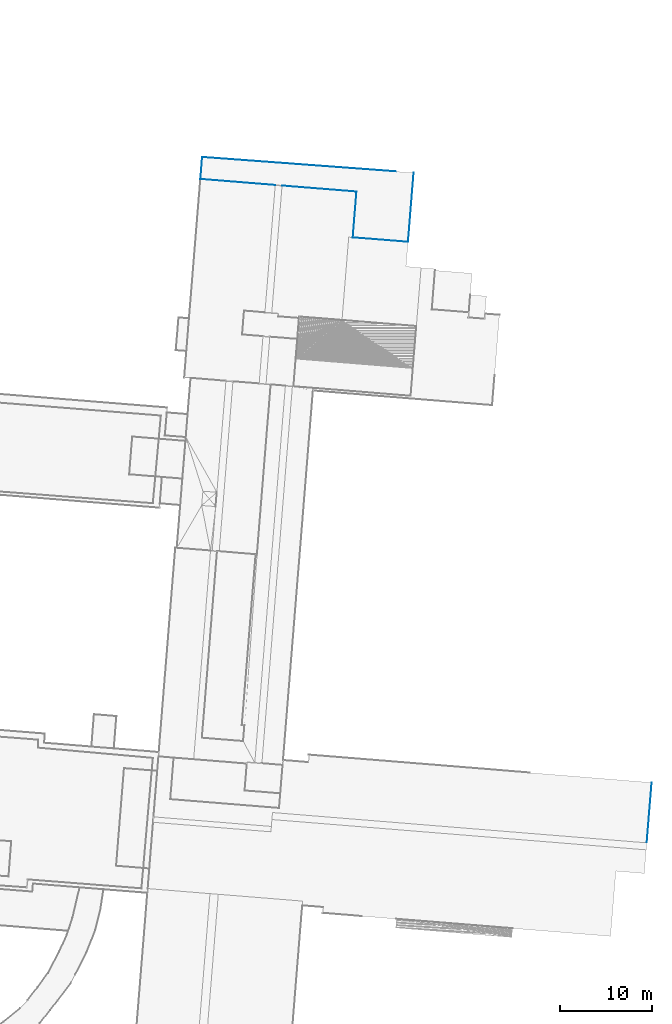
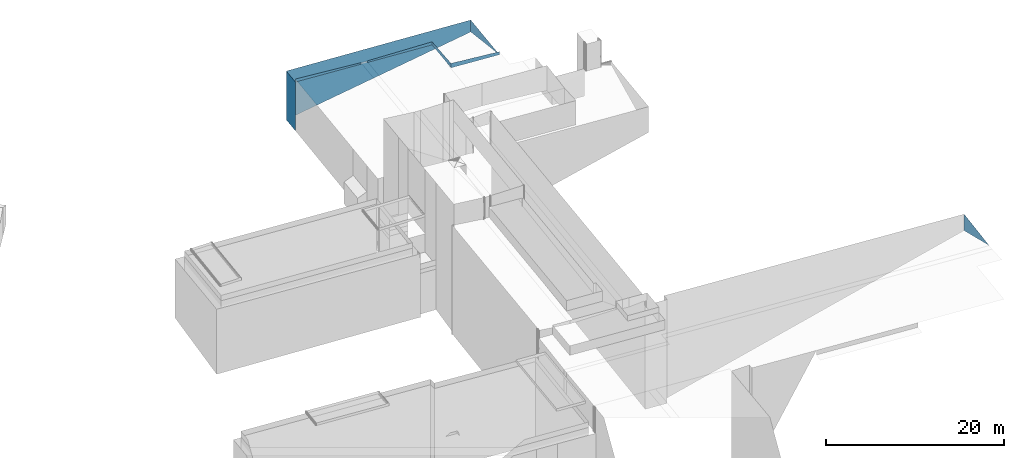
# Not in any storey, part 83 of 136: 8 walls.
"""IFC4 building model written with IfcOpenShell, lengths in metres."""

import ifcopenshell
import ifcopenshell.guid

model = None  # the IFC model being written
_history = None  # IfcOwnerHistory: only IFC2X3 demands one
_inside = {}  # id of a spatial element -> (the spatial element, [elements in it])
_under = {}  # id of a project, library or spatial element -> (it, [spatial elements below it])
_declared = {}  # id of a project -> (the project, [libraries it declares])
_typed = {}  # id of a type object -> (the type object, [elements of that type])
_made_of = {}  # id of a material, layer set ... -> (it, [elements and type objects made of it])


def new_model(schema):
    """Start an empty IFC model of exactly this schema.

    Asked for "IFC4X3", IfcOpenShell would pick the latest addendum, in which some entities
    have other attributes; the version numbers below select the first issue.
    IFC2X3 requires an IfcOwnerHistory on every rooted entity: one is made here for all.
    """
    global model, _history
    if schema == "IFC4X3":
        model = ifcopenshell.file(schema_version=(4, 3, 0, 0))
    else:
        model = ifcopenshell.file(schema=schema)
    _inside.clear()
    _under.clear()
    _declared.clear()
    _typed.clear()
    _made_of.clear()
    _history = None
    if model.schema == "IFC2X3":
        org = make("IfcOrganization", Name="unknown")
        user = make(
            "IfcPersonAndOrganization",
            ThePerson=make("IfcPerson", FamilyName="unknown"),
            TheOrganization=org,
        )
        app = make(
            "IfcApplication",
            ApplicationDeveloper=org,
            Version="unknown",
            ApplicationFullName="unknown",
            ApplicationIdentifier="unknown",
        )
        _history = make(
            "IfcOwnerHistory",
            OwningUser=user,
            OwningApplication=app,
            ChangeAction="ADDED",
            CreationDate=0,
        )
    return model


def make(cls, **values):
    """One entity of the class cls with the attributes given. An attribute that is None is left unset."""
    return model.create_entity(
        cls, **{name: value for name, value in values.items() if value is not None}
    )


def entity(cls, *values):
    """Any entity or typed value of the class cls, its attributes in the order of the schema. None: left unset."""
    e = model.create_entity(cls)
    for i, value in enumerate(values):
        if value is not None:
            e[i] = value
    return e


def rooted(cls, **values):
    """An entity with a GlobalId (a new one), such as an element, a storey or a relation."""
    return make(cls, GlobalId=ifcopenshell.guid.new(), OwnerHistory=_history, **values)


def si_unit(unit_type, name, prefix=None):
    """IfcSIUnit, for example si_unit("LENGTHUNIT", "METRE", prefix="MILLI")."""
    return make("IfcSIUnit", UnitType=unit_type, Prefix=prefix, Name=name)


def converted_unit(unit_type, name, factor, base, dimensions=None, offset=None):
    """IfcConversionBasedUnit, such as the inch: factor (a typed value) times the base unit."""
    return make(
        "IfcConversionBasedUnit"
        if offset is None
        else "IfcConversionBasedUnitWithOffset",
        ConversionOffset=offset,
        Dimensions=None
        if dimensions is None
        else entity("IfcDimensionalExponents", *dimensions),
        UnitType=unit_type,
        Name=name,
        ConversionFactor=make(
            "IfcMeasureWithUnit", ValueComponent=factor, UnitComponent=base
        ),
    )


def assignment(units):
    """IfcUnitAssignment: the units of a project."""
    return None if units is None else make("IfcUnitAssignment", Units=units)


def point(xyz):
    """IfcCartesianPoint."""
    return None if xyz is None else make("IfcCartesianPoint", Coordinates=xyz)


def direction(xyz):
    """IfcDirection."""
    return None if xyz is None else make("IfcDirection", DirectionRatios=xyz)


def frame(location, z_axis=None, x_axis=None):
    """IfcAxis2Placement3D, a coordinate frame: its origin and axes. An axis left out is left unset."""
    return make(
        "IfcAxis2Placement3D",
        Location=point(location),
        Axis=direction(z_axis),
        RefDirection=direction(x_axis),
    )


def origin():
    """The frame at (0, 0, 0) with its axes left unset."""
    return frame((0.0, 0.0, 0.0))


def place(relative_to, where):
    """IfcLocalPlacement: puts the frame where relative to a parent placement (None: the world)."""
    return make(
        "IfcLocalPlacement", PlacementRelTo=relative_to, RelativePlacement=where
    )


def context(
    kind, dimensions, precision=None, world=None, true_north=None, identifier=None
):
    """IfcGeometricRepresentationContext, for example the 3D "Model" context."""
    return make(
        "IfcGeometricRepresentationContext",
        ContextIdentifier=identifier,
        ContextType=kind,
        CoordinateSpaceDimension=dimensions,
        Precision=precision,
        WorldCoordinateSystem=world,
        TrueNorth=true_north,
    )


def subcontext(parent, identifier, kind, view, scale=None):
    """IfcGeometricRepresentationSubContext, for example "Body" below "Model"."""
    return make(
        "IfcGeometricRepresentationSubContext",
        ContextIdentifier=identifier,
        ContextType=kind,
        ParentContext=parent,
        TargetScale=scale,
        TargetView=view,
    )


def project(units=None, contexts=None):
    """IfcProject with its units and contexts."""
    return rooted(
        "IfcProject",
        Name="project",
        RepresentationContexts=contexts,
        UnitsInContext=assignment(units),
    )


def spatial(cls, under=None, at=None, **own):
    """A site, building, storey or space (cls), placed at a placement, below another one or the project."""
    s = rooted(cls, ObjectPlacement=at, **own)
    if under is not None:
        _under.setdefault(under.id(), (under, []))[1].append(s)
    return s


def faces_of(points, faces, orient=None, outer=None):
    """IfcFace entities. A face is a list of loops; a loop is a list of indices into points, from 0.

    orient and outer hold one flag for each loop. By default every Orientation is true, the
    first loop of a face is its IfcFaceOuterBound and the others are IfcFaceBound.
    """
    made = []
    for i, loops in enumerate(faces):
        bounds = []
        for j, loop in enumerate(loops):
            is_outer = j == 0 if outer is None else outer[i][j]
            bounds.append(
                make(
                    "IfcFaceOuterBound" if is_outer else "IfcFaceBound",
                    Bound=make("IfcPolyLoop", Polygon=[points[k] for k in loop]),
                    Orientation=True if orient is None else orient[i][j],
                )
            )
        made.append(make("IfcFace", Bounds=bounds))
    return made


def face_set(faces, orient=None, outer=None):
    """The faces of one IfcConnectedFaceSet. surface_model builds it on its shared points."""
    return ("IfcConnectedFaceSet", faces, orient, outer)


def surface_model(cls, points, shells):
    """IfcFaceBasedSurfaceModel or IfcShellBasedSurfaceModel (cls): surfaces that need not close."""
    shared = [point(p) for p in points]
    made = [make(c, CfsFaces=faces_of(shared, fs, o, b)) for c, fs, o, b in shells]
    if cls == "IfcFaceBasedSurfaceModel":
        return make(cls, FbsmFaces=made)
    return make(cls, SbsmBoundary=made)


def shape(context_of_items, identifier, shape_type, items):
    """IfcShapeRepresentation: the items that make up one representation, for example the "Body"."""
    return make(
        "IfcShapeRepresentation",
        ContextOfItems=context_of_items,
        RepresentationIdentifier=identifier,
        RepresentationType=shape_type,
        Items=items,
    )


def made_of(thing, what):
    """Note that an element or type object is made of a material, layer set ...; save() writes the relation."""
    if what is not None:
        _made_of.setdefault(what.id(), (what, []))[1].append(thing)
    return thing


def element(
    cls,
    number,
    at=None,
    inside=None,
    cuts=None,
    type_object=None,
    material=None,
    context=None,
    identifier="Body",
    shape_type=None,
    held_by="IfcProductDefinitionShape",
    body=None,
    shapes=None,
    **own,
):
    """One element of the class cls, such as IfcWall. Its Tag is "e" and its number.

    at: its placement. inside: the storey or other place that contains it. cuts: it is an
    opening in that element (IfcRelVoidsElement). A single representation is given by context,
    identifier, shape_type and body (its items); several are given by shapes. held_by: the class
    of the entity that holds the representations. save() writes the other relations.
    """
    e = rooted(cls, Tag="e%d" % number, ObjectPlacement=at, **own)
    if body is not None:
        shapes = [shape(context, identifier, shape_type, body)]
    if shapes is not None:
        e.Representation = make(held_by, Representations=shapes)
    if inside is not None:
        _inside.setdefault(inside.id(), (inside, []))[1].append(e)
    if cuts is not None:
        rooted(
            "IfcRelVoidsElement", RelatingBuildingElement=cuts, RelatedOpeningElement=e
        )
    if type_object is not None:
        _typed.setdefault(type_object.id(), (type_object, []))[1].append(e)
    return made_of(e, material)


def aggregate(whole, parts):
    """IfcRelAggregates: a whole, such as a stair, and the parts it consists of."""
    return rooted("IfcRelAggregates", RelatingObject=whole, RelatedObjects=parts)


def save(model, path):
    """Write the relations noted so far, then the file.

    IfcRelAggregates (storeys below a building ...), IfcRelContainedInSpatialStructure (elements
    in a storey), IfcRelDefinesByType, IfcRelAssociatesMaterial and IfcRelDeclares: one each for
    every whole, place, type object, material and project.
    """
    for whole, parts in _under.values():
        aggregate(whole, parts)
    for where, things in _inside.values():
        rooted(
            "IfcRelContainedInSpatialStructure",
            RelatedElements=things,
            RelatingStructure=where,
        )
    for kind, things in _typed.values():
        rooted("IfcRelDefinesByType", RelatedObjects=things, RelatingType=kind)
    for what, things in _made_of.values():
        rooted("IfcRelAssociatesMaterial", RelatedObjects=things, RelatingMaterial=what)
    for by, libraries in _declared.values():
        rooted("IfcRelDeclares", RelatingContext=by, RelatedDefinitions=libraries)
    model.write(path)


model = new_model("IFC4")

# Units and contexts
model_context = context("Model", 3, precision=1e-05, world=origin())
body_context = subcontext(model_context, "Body", "Model", "MODEL_VIEW")
ifc_project = project(units=[converted_unit("PLANEANGLEUNIT", "DEGREE", entity("IfcRatioMeasure", 0.0174532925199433), si_unit("PLANEANGLEUNIT", "RADIAN"), dimensions=[0, 0, 0, 0, 0, 0, 0]), si_unit("AREAUNIT", "SQUARE_METRE"), si_unit("LENGTHUNIT", "METRE")], contexts=[model_context])

# Site, building
site_placement = place(None, origin())
site = spatial("IfcSite", under=ifc_project, at=site_placement, Name="_site")
building_placement = place(site_placement, origin())
building = spatial("IfcBuilding", under=site, at=building_placement, Name="_building")

# Walls
wall_1_placement = place(building_placement, origin())
element("IfcWall", 1, at=wall_1_placement, inside=building, Name="Wall", PredefinedType="NOTDEFINED", context=body_context, shape_type="SurfaceModel", body=[
    surface_model("IfcFaceBasedSurfaceModel", [(266.59, 62.84, 52.25), (266.06, 56.3, 52.09), (266.59, 62.84, 49.983)], [face_set([[[0, 1, 2]]])]),
])
wall_2_placement = place(building_placement, origin())
element("IfcWall", 2, at=wall_2_placement, inside=building, Name="Wall", PredefinedType="NOTDEFINED", context=body_context, shape_type="SurfaceModel", body=[
    surface_model("IfcFaceBasedSurfaceModel", [(240.77, 128.99, 47.8), (240.16, 121.49, 47.8), (240.77, 128.99, 46.154)], [face_set([[[0, 1, 2]]])]),
])
wall_3_placement = place(building_placement, origin())
element("IfcWall", 3, at=wall_3_placement, inside=building, Name="Wall", PredefinedType="NOTDEFINED", context=body_context, shape_type="SurfaceModel", body=[
    surface_model("IfcFaceBasedSurfaceModel", [(234.17, 121.97, 48.42), (240.16, 121.49, 48.22), (240.16, 121.49, 47.8), (234.17, 121.97, 47.8)], [face_set([[[0, 1, 2, 3]]])]),
])
wall_4_placement = place(building_placement, origin())
element("IfcWall", 4, at=wall_4_placement, inside=building, Name="Wall", PredefinedType="NOTDEFINED", context=body_context, shape_type="SurfaceModel", body=[
    surface_model("IfcFaceBasedSurfaceModel", [(234.57, 126.94, 48.22), (234.17, 121.97, 48.42), (234.17, 121.97, 47.8), (234.57, 126.94, 47.8)], [face_set([[[0, 1, 2, 3]]])]),
])
wall_5_placement = place(building_placement, origin())
element("IfcWall", 5, at=wall_5_placement, inside=building, Name="Wall", PredefinedType="NOTDEFINED", context=body_context, shape_type="SurfaceModel", body=[
    surface_model("IfcFaceBasedSurfaceModel", [(226.49, 127.592, 48.02), (234.57, 126.94, 48.22), (234.57, 126.94, 47.8), (226.49, 127.592, 47.8)], [face_set([[[0, 1, 2, 3]]])]),
])
wall_6_placement = place(building_placement, origin())
element("IfcWall", 6, at=wall_6_placement, inside=building, Name="Wall", PredefinedType="NOTDEFINED", context=body_context, shape_type="SurfaceModel", body=[
    surface_model("IfcFaceBasedSurfaceModel", [(217.64, 128.311, 47.8), (217.83, 130.69, 47.8), (217.83, 130.69, 41.124), (217.64, 128.311, 41.114)], [face_set([[[0, 1, 2, 3]]])]),
])
wall_7_placement = place(building_placement, origin())
element("IfcWall", 7, at=wall_7_placement, inside=building, Name="Wall", PredefinedType="NOTDEFINED", context=body_context, shape_type="SurfaceModel", body=[
    surface_model("IfcFaceBasedSurfaceModel", [(217.64, 128.311, 48.22), (225.75, 127.652, 48.02), (225.75, 127.652, 47.8), (217.64, 128.311, 47.8)], [face_set([[[0, 1, 2, 3]]])]),
])
wall_8_placement = place(building_placement, origin())
element("IfcWall", 8, at=wall_8_placement, inside=building, Name="Wall", PredefinedType="NOTDEFINED", context=body_context, shape_type="SurfaceModel", body=[
    surface_model("IfcFaceBasedSurfaceModel", [(217.83, 130.69, 47.8), (240.77, 128.99, 47.8), (240.77, 128.99, 46.154), (217.83, 130.69, 41.124)], [face_set([[[0, 1, 2, 3]]])]),
])

save(model, "model.ifc")
